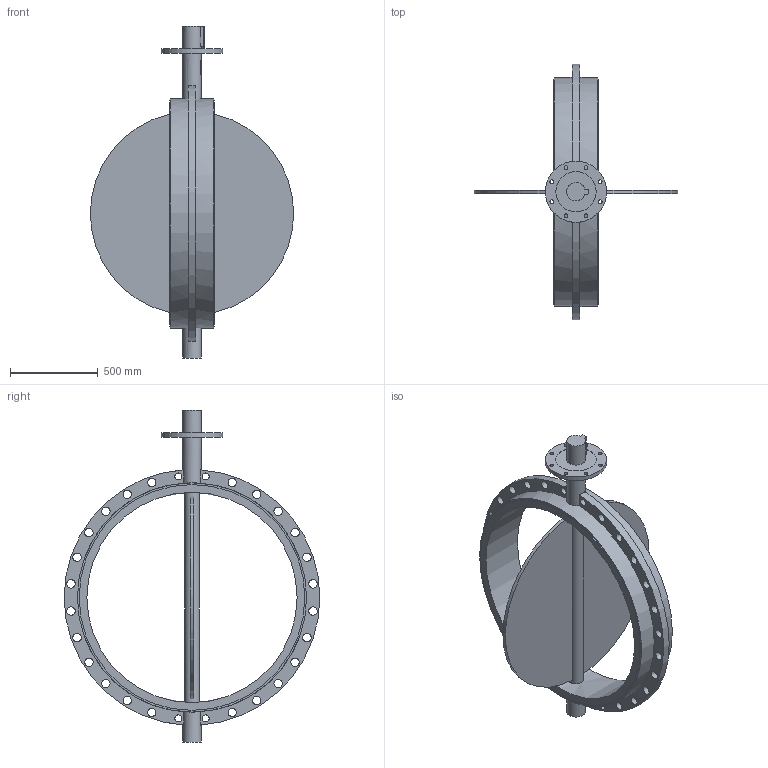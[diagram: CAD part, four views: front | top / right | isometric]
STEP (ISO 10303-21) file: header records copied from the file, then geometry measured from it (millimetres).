
FILE_DESCRIPTION(('STEP AP203'), '1');
FILE_NAME('青蜮铕 017W.YS_DN1200_PN16', '', ('UNSPECIFIED'), ('UNSPECIFIED'), 'ASCON STEP Converter 1.6', 'ASCON Math Kernel', '');
FILE_SCHEMA(('CONFIG_CONTROL_DESIGN'));
Length unit declared in the file: millimetre
Bounding box: 1160.6 x 1460 x 1895 mm (x, y, z)
Volume: 98962851.1 mm3; surface area: 5815544.5 mm2
Topology: 1 solids, 1 shells, 96 faces, 247 edges, 164 vertices
Faces by surface type: cylinder 60, plane 36
Full cylindrical faces by diameter (mm): 22 x8, 40.129 x4, 48 x24, 85 x1, 105 x3, 230 x1, 350 x1, 1200 x1, 1288 x2, 1308 x2
Entity records: 4650 total; most frequent: CARTESIAN_POINT 1445, DIRECTION 498, ORIENTED_EDGE 400, EDGE_LOOP 230, AXIS2_PLACEMENT_3D 219, EDGE_CURVE 200, VERTEX_POINT 164, FACE_BOUND 141
